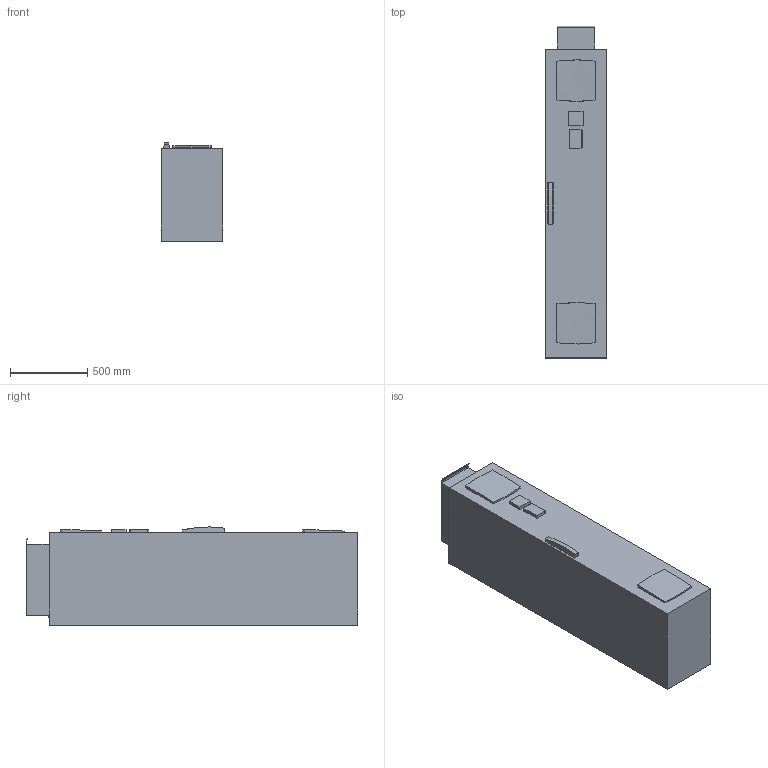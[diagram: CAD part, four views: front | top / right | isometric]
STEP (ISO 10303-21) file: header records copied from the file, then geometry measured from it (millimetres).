
FILE_DESCRIPTION(('STEP AP242'),'1');
FILE_NAME('atv630c11n4f.stp','2021-06-25T06:13:41',('TraceParts'),('TraceParts S.A.'),'Spatial InterOp 3D',' ',' ');
FILE_SCHEMA(('AP242_MANAGED_MODEL_BASED_3D_ENGINEERING_MIM_LF {1 0 10303 442 1 1 4}'));
Length unit declared in the file: millimetre
Products named in the file (1): atv630c11n4f
Bounding box: 400 x 2152.5 x 636.78 mm (x, y, z)
Volume: 500253735.1 mm3; surface area: 4784643.7 mm2
Topology: 1 solids, 1 shells, 49 faces, 126 edges, 84 vertices
Faces by surface type: plane 35, cylinder 7, bspline 4, revolution 3
Entity records: 1754 total; most frequent: CARTESIAN_POINT 586, ORIENTED_EDGE 252, DIRECTION 202, EDGE_CURVE 126, LINE 87, VECTOR 87, VERTEX_POINT 84, AXIS2_PLACEMENT_3D 56
